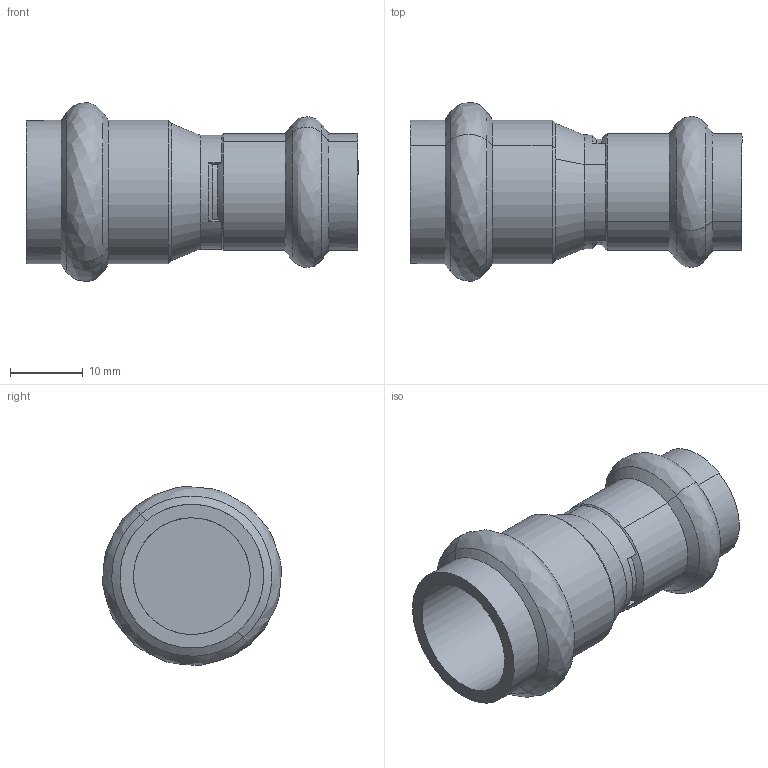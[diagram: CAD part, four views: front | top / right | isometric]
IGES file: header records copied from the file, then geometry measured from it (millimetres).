
Start section: 3D InterOp IGES (Version 25 0 1), Spatial Corp. Copyright (c) 1999-2007.
Global section: file name: pim0004370.igs; native system: Spatial Corp.; preprocessor: 3D InterOp ACIS/IGES; author: Cad-Pim; organization: TransMagic, Inc.; date: 20150430.130552; units: millimetre
Bounding box: 45.5 x 24.5 x 24.5 mm (x, y, z)
Volume: 6521.6 mm3; surface area: 5130.1 mm2
Topology: 1 solids, 1 shells, 44 faces, 116 edges, 76 vertices
Faces by surface type: bspline 20, cone 12, cylinder 12
